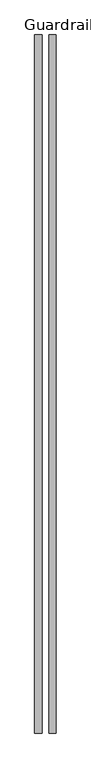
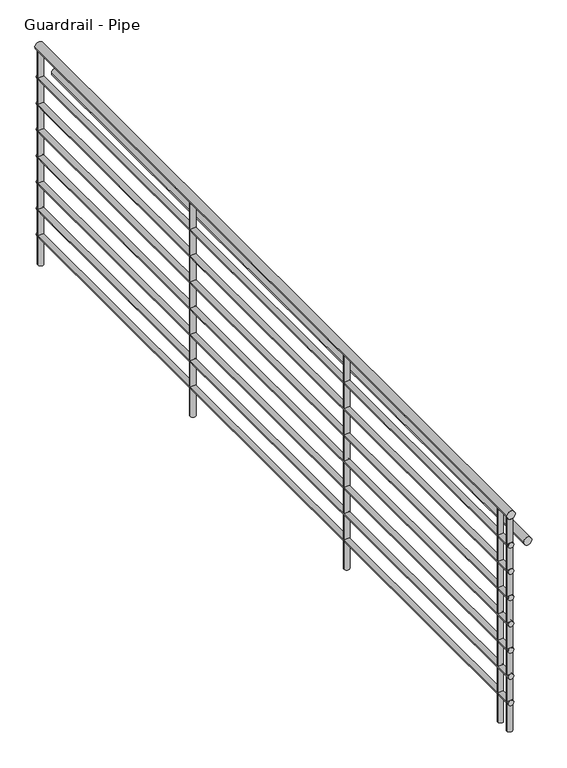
"""IFC4 building model written with IfcOpenShell, lengths in millimetres: railing geometry, Guardrail - Pipe."""

from ifc_helpers import new_model, si_unit, point, frame, frame_2d, origin, origin_with_axes, place, context, project, spatial, circle_curve, trimmed, segment, composite_curve, outline, extrude, source, transform, mapped, element, save


def guardrail_pipe_0a43caf4(model_context):
    return source(origin(), model_context, "Body", "SweptSolid", [
        extrude(outline(composite_curve([segment(trimmed(circle_curve(frame_2d((1047.75, -43916.202824)), 19.05), [point((1047.75, -43897.152824))], [point((1047.75, -43935.252824))], False, "CARTESIAN"), True, "CONTINUOUS"), segment(trimmed(circle_curve(frame_2d((1047.75, -43916.202824)), 19.05), [point((1047.75, -43935.252824))], [point((1047.75, -43897.152824))], False, "CARTESIAN"), True, "CONTINUOUS")], self_intersect=False)), frame((0.0, 9070.94779, 0.0), z_axis=(0.0, 1.0, 0.0), x_axis=(0.0, 0.0, 1.0)), (0.0, 0.0, 1.0), 3741.7375),
        extrude(outline(composite_curve([segment(trimmed(circle_curve(frame_2d((901.7, -43916.202824)), 12.7), [point((901.7, -43903.502824))], [point((901.7, -43928.902824))], False, "CARTESIAN"), True, "CONTINUOUS"), segment(trimmed(circle_curve(frame_2d((901.7, -43916.202824)), 12.7), [point((901.7, -43928.902824))], [point((901.7, -43903.502824))], False, "CARTESIAN"), True, "CONTINUOUS")], self_intersect=False)), frame((0.0, 9070.94779, 0.0), z_axis=(0.0, 1.0, 0.0), x_axis=(0.0, 0.0, 1.0)), (0.0, 0.0, 1.0), 3741.7375),
        extrude(outline(composite_curve([segment(trimmed(circle_curve(frame_2d((895.35, -43840.002824)), 19.05), [point((895.35, -43820.952824))], [point((895.35, -43859.052824))], False, "CARTESIAN"), True, "CONTINUOUS"), segment(trimmed(circle_curve(frame_2d((895.35, -43840.002824)), 19.05), [point((895.35, -43859.052824))], [point((895.35, -43820.952824))], False, "CARTESIAN"), True, "CONTINUOUS")], self_intersect=False)), frame((0.0, 9070.94779, 0.0), z_axis=(0.0, 1.0, 0.0), x_axis=(0.0, 0.0, 1.0)), (0.0, 0.0, 1.0), 3741.7375),
        extrude(outline(composite_curve([segment(trimmed(circle_curve(frame_2d((774.7, -43916.202824)), 12.7), [point((774.7, -43903.502824))], [point((774.7, -43928.902824))], False, "CARTESIAN"), True, "CONTINUOUS"), segment(trimmed(circle_curve(frame_2d((774.7, -43916.202824)), 12.7), [point((774.7, -43928.902824))], [point((774.7, -43903.502824))], False, "CARTESIAN"), True, "CONTINUOUS")], self_intersect=False)), frame((0.0, 9070.94779, 0.0), z_axis=(0.0, 1.0, 0.0), x_axis=(0.0, 0.0, 1.0)), (0.0, 0.0, 1.0), 3741.7375),
        extrude(outline(composite_curve([segment(trimmed(circle_curve(frame_2d((647.7, -43916.202824)), 12.7), [point((647.7, -43903.502824))], [point((647.7, -43928.902824))], False, "CARTESIAN"), True, "CONTINUOUS"), segment(trimmed(circle_curve(frame_2d((647.7, -43916.202824)), 12.7), [point((647.7, -43928.902824))], [point((647.7, -43903.502824))], False, "CARTESIAN"), True, "CONTINUOUS")], self_intersect=False)), frame((0.0, 9070.94779, 0.0), z_axis=(0.0, 1.0, 0.0), x_axis=(0.0, 0.0, 1.0)), (0.0, 0.0, 1.0), 3741.7375),
        extrude(outline(composite_curve([segment(trimmed(circle_curve(frame_2d((520.7, -43916.202824)), 12.7), [point((520.7, -43903.502824))], [point((520.7, -43928.902824))], False, "CARTESIAN"), True, "CONTINUOUS"), segment(trimmed(circle_curve(frame_2d((520.7, -43916.202824)), 12.7), [point((520.7, -43928.902824))], [point((520.7, -43903.502824))], False, "CARTESIAN"), True, "CONTINUOUS")], self_intersect=False)), frame((0.0, 9070.94779, 0.0), z_axis=(0.0, 1.0, 0.0), x_axis=(0.0, 0.0, 1.0)), (0.0, 0.0, 1.0), 3741.7375),
        extrude(outline(composite_curve([segment(trimmed(circle_curve(frame_2d((393.7, -43916.202824)), 12.7), [point((393.7, -43903.502824))], [point((393.7, -43928.902824))], False, "CARTESIAN"), True, "CONTINUOUS"), segment(trimmed(circle_curve(frame_2d((393.7, -43916.202824)), 12.7), [point((393.7, -43928.902824))], [point((393.7, -43903.502824))], False, "CARTESIAN"), True, "CONTINUOUS")], self_intersect=False)), frame((0.0, 9070.94779, 0.0), z_axis=(0.0, 1.0, 0.0), x_axis=(0.0, 0.0, 1.0)), (0.0, 0.0, 1.0), 3741.7375),
        extrude(outline(composite_curve([segment(trimmed(circle_curve(frame_2d((266.7, -43916.202824)), 12.7), [point((266.7, -43903.502824))], [point((266.7, -43928.902824))], False, "CARTESIAN"), True, "CONTINUOUS"), segment(trimmed(circle_curve(frame_2d((266.7, -43916.202824)), 12.7), [point((266.7, -43928.902824))], [point((266.7, -43903.502824))], False, "CARTESIAN"), True, "CONTINUOUS")], self_intersect=False)), frame((0.0, 9070.94779, 0.0), z_axis=(0.0, 1.0, 0.0), x_axis=(0.0, 0.0, 1.0)), (0.0, 0.0, 1.0), 3741.7375),
        extrude(outline(composite_curve([segment(trimmed(circle_curve(frame_2d((139.7, -43916.202824)), 12.7), [point((139.7, -43903.502824))], [point((139.7, -43928.902824))], False, "CARTESIAN"), True, "CONTINUOUS"), segment(trimmed(circle_curve(frame_2d((139.7, -43916.202824)), 12.7), [point((139.7, -43928.902824))], [point((139.7, -43903.502824))], False, "CARTESIAN"), True, "CONTINUOUS")], self_intersect=False)), frame((0.0, 9070.94779, 0.0), z_axis=(0.0, 1.0, 0.0), x_axis=(0.0, 0.0, 1.0)), (0.0, 0.0, 1.0), 3741.7375),
        extrude(outline(composite_curve([segment(trimmed(circle_curve(frame_2d((-43916.202824, 9155.08529)), 12.7), [point((-43903.502824, 9155.08529))], [point((-43928.902824, 9155.08529))], False, "CARTESIAN"), True, "CONTINUOUS"), segment(trimmed(circle_curve(frame_2d((-43916.202824, 9155.08529)), 12.7), [point((-43928.902824, 9155.08529))], [point((-43903.502824, 9155.08529))], False, "CARTESIAN"), True, "CONTINUOUS")], self_intersect=False)), origin_with_axes(), (0.0, 0.0, 1.0), 1028.7),
        extrude(outline(composite_curve([segment(trimmed(circle_curve(frame_2d((-43916.202824, 10374.28529)), 12.7), [point((-43903.502824, 10374.28529))], [point((-43928.902824, 10374.28529))], False, "CARTESIAN"), True, "CONTINUOUS"), segment(trimmed(circle_curve(frame_2d((-43916.202824, 10374.28529)), 12.7), [point((-43928.902824, 10374.28529))], [point((-43903.502824, 10374.28529))], False, "CARTESIAN"), True, "CONTINUOUS")], self_intersect=False)), origin_with_axes(), (0.0, 0.0, 1.0), 1028.7),
        extrude(outline(composite_curve([segment(trimmed(circle_curve(frame_2d((-43916.202824, 11593.48529)), 12.7), [point((-43903.502824, 11593.48529))], [point((-43928.902824, 11593.48529))], False, "CARTESIAN"), True, "CONTINUOUS"), segment(trimmed(circle_curve(frame_2d((-43916.202824, 11593.48529)), 12.7), [point((-43928.902824, 11593.48529))], [point((-43903.502824, 11593.48529))], False, "CARTESIAN"), True, "CONTINUOUS")], self_intersect=False)), origin_with_axes(), (0.0, 0.0, 1.0), 1028.7),
        extrude(outline(composite_curve([segment(trimmed(circle_curve(frame_2d((-43916.202824, 9083.64779)), 12.7), [point((-43903.502824, 9083.64779))], [point((-43928.902824, 9083.64779))], False, "CARTESIAN"), True, "CONTINUOUS"), segment(trimmed(circle_curve(frame_2d((-43916.202824, 9083.64779)), 12.7), [point((-43928.902824, 9083.64779))], [point((-43903.502824, 9083.64779))], False, "CARTESIAN"), True, "CONTINUOUS")], self_intersect=False)), origin_with_axes(), (0.0, 0.0, 1.0), 1028.7),
        extrude(outline(composite_curve([segment(trimmed(circle_curve(frame_2d((-43916.202824, 12799.98529)), 12.7), [point((-43903.502824, 12799.98529))], [point((-43928.902824, 12799.98529))], False, "CARTESIAN"), True, "CONTINUOUS"), segment(trimmed(circle_curve(frame_2d((-43916.202824, 12799.98529)), 12.7), [point((-43928.902824, 12799.98529))], [point((-43903.502824, 12799.98529))], False, "CARTESIAN"), True, "CONTINUOUS")], self_intersect=False)), origin_with_axes(), (0.0, 0.0, 1.0), 1028.7),
    ])


if __name__ == "__main__":
    model = new_model("IFC4")
    model_context = context("Model", 3, world=origin())
    ifc_project = project(units=[si_unit("LENGTHUNIT", "METRE", prefix="MILLI")], contexts=[model_context])
    site = spatial("IfcSite", under=ifc_project)
    building = spatial("IfcBuilding", under=site)
    placement = place(None, origin())
    guardrail_pipe_shape = guardrail_pipe_0a43caf4(model_context)
    element("IfcRailing", 1, ObjectType="Guardrail - Pipe", at=placement, inside=building, context=model_context, shape_type="MappedRepresentation", body=[
        mapped(guardrail_pipe_shape, transform((0.0, 0.0, 0.0), x_axis=(1.0, 0.0, 0.0), y_axis=(0.0, 1.0, 0.0), z_axis=(0.0, 0.0, 1.0))),
    ])
    save(model, "model.ifc")
